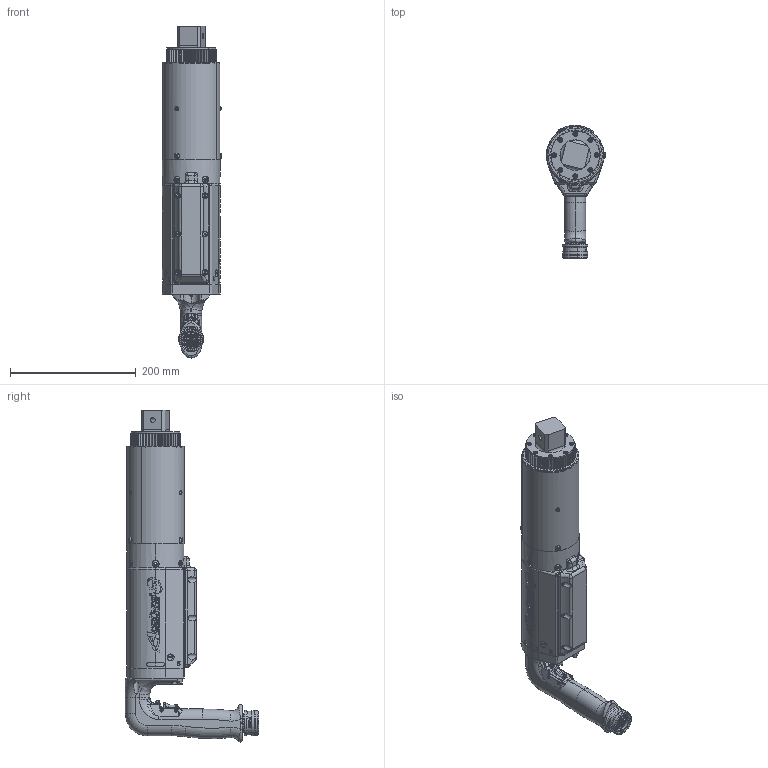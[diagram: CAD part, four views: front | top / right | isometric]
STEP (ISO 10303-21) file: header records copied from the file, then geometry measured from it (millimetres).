
FILE_DESCRIPTION (( 'STEP AP214' ), '1' );
FILE_NAME ('AED4B884200B, AED4W884650B, AED4B885000B.STEP', '2016-04-04T22:31:34', ( 'AIMCO' ), ( '' ), 'SwSTEP 2.0', 'SolidWorks 2016', '' );
FILE_SCHEMA (( 'AUTOMOTIVE_DESIGN' ));
Length unit declared in the file: inch
Products named in the file (1): AED4B884200B, AED4W884650B, AED4B885000B
Bounding box: 93.88 x 211.63 x 527.51 mm (x, y, z)
Surface area: 271227.7 mm2 (no closed solid volume)
Topology: 0 solids, 99 shells, 1256 faces, 4775 edges, 3497 vertices
Faces by surface type: cylinder 449, bspline 330, plane 262, torus 130, cone 67, sphere 18
Entity records: 83603 total; most frequent: CARTESIAN_POINT 31529, ORIENTED_EDGE 7131, DIRECTION 6433, EDGE_CURVE 4757, VERTEX_POINT 3495, AXIS2_PLACEMENT_3D 2372, VECTOR 1689, LINE 1689
